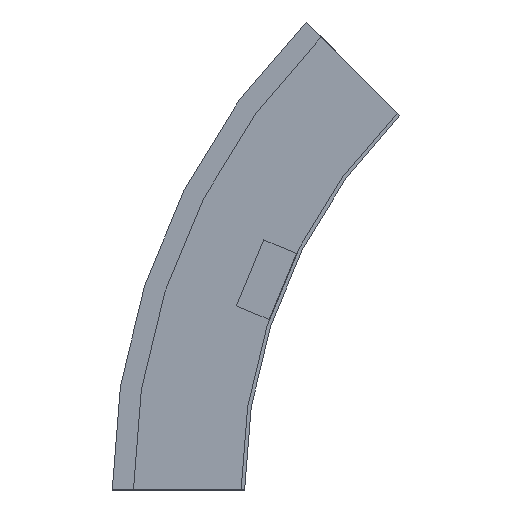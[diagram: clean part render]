
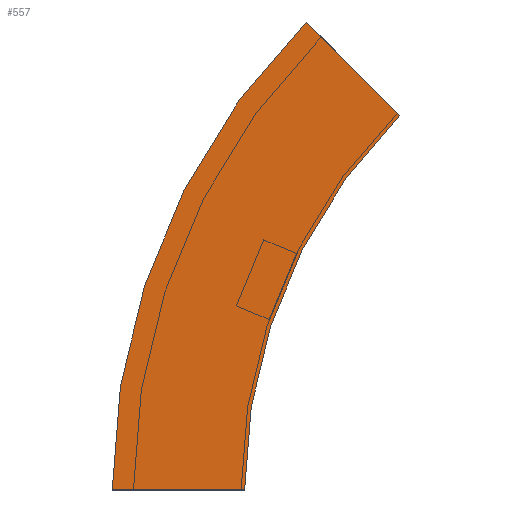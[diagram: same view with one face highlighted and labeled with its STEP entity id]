
A CAD part, left-side view. The second image highlights one B-rep face of the part: STEP entity #557.
In plain terms, the highlighted planar face has unit normal (-1, 0, 0) as drawn and (1, 0, 0) by its records, which use the part's own axes.
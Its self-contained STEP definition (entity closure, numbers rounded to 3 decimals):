
#1 = EDGE_CURVE ( 'NONE', #403, #452, #23, .T. ) ;
#2 = VECTOR ( 'NONE', #119, 1000. ) ;
#9 = DIRECTION ( 'NONE',  ( 0., 1., 0. ) ) ;
#23 = CIRCLE ( 'NONE', #167, 375. ) ;
#27 = CARTESIAN_POINT ( 'NONE',  ( 0., 0., 0. ) ) ;
#28 = CARTESIAN_POINT ( 'NONE',  ( 0., 0., 0. ) ) ;
#37 = CARTESIAN_POINT ( 'NONE',  ( 0., 0., 0. ) ) ;
#49 = DIRECTION ( 'NONE',  ( 1., 0., 0. ) ) ;
#61 = ORIENTED_EDGE ( 'NONE', *, *, #180, .F. ) ;
#87 = LINE ( 'NONE', #37, #294 ) ;
#89 = CARTESIAN_POINT ( 'NONE',  ( 0., -87.868, 212.132 ) ) ;
#102 = AXIS2_PLACEMENT_3D ( 'NONE', #28, #200, #292 ) ;
#119 = DIRECTION ( 'NONE',  ( 0., 0.707, 0.707 ) ) ;
#123 = LINE ( 'NONE', #89, #2 ) ;
#144 = VERTEX_POINT ( 'NONE', #335 ) ;
#167 = AXIS2_PLACEMENT_3D ( 'NONE', #173, #49, #342 ) ;
#173 = CARTESIAN_POINT ( 'NONE',  ( 0., -300., 0. ) ) ;
#180 = EDGE_CURVE ( 'NONE', #144, #452, #123, .T. ) ;
#188 = ORIENTED_EDGE ( 'NONE', *, *, #400, .T. ) ;
#200 = DIRECTION ( 'NONE',  ( 1., 0., 0. ) ) ;
#232 = CARTESIAN_POINT ( 'NONE',  ( 0., -34.835, 265.165 ) ) ;
#237 = AXIS2_PLACEMENT_3D ( 'NONE', #358, #396, #9 ) ;
#248 = FACE_OUTER_BOUND ( 'NONE', #501, .T. ) ;
#264 = EDGE_CURVE ( 'NONE', #508, #144, #544, .T. ) ;
#292 = DIRECTION ( 'NONE',  ( 0., 0., -1. ) ) ;
#294 = VECTOR ( 'NONE', #379, 1000. ) ;
#335 = CARTESIAN_POINT ( 'NONE',  ( 0., -87.868, 212.132 ) ) ;
#342 = DIRECTION ( 'NONE',  ( 0., 1., 0. ) ) ;
#358 = CARTESIAN_POINT ( 'NONE',  ( 0., -300., 0. ) ) ;
#379 = DIRECTION ( 'NONE',  ( 0., 1., 0. ) ) ;
#396 = DIRECTION ( 'NONE',  ( 1., 0., 0. ) ) ;
#400 = EDGE_CURVE ( 'NONE', #508, #403, #87, .T. ) ;
#403 = VERTEX_POINT ( 'NONE', #475 ) ;
#419 = PLANE ( 'NONE',  #102 ) ;
#422 = ORIENTED_EDGE ( 'NONE', *, *, #264, .F. ) ;
#452 = VERTEX_POINT ( 'NONE', #232 ) ;
#475 = CARTESIAN_POINT ( 'NONE',  ( 0., 75., 0. ) ) ;
#501 = EDGE_LOOP ( 'NONE', ( #546, #61, #422, #188 ) ) ;
#508 = VERTEX_POINT ( 'NONE', #27 ) ;
#544 = CIRCLE ( 'NONE', #237, 300. ) ;
#546 = ORIENTED_EDGE ( 'NONE', *, *, #1, .T. ) ;
#557 = ADVANCED_FACE ( 'NONE', ( #248 ), #419, .T. ) ;
